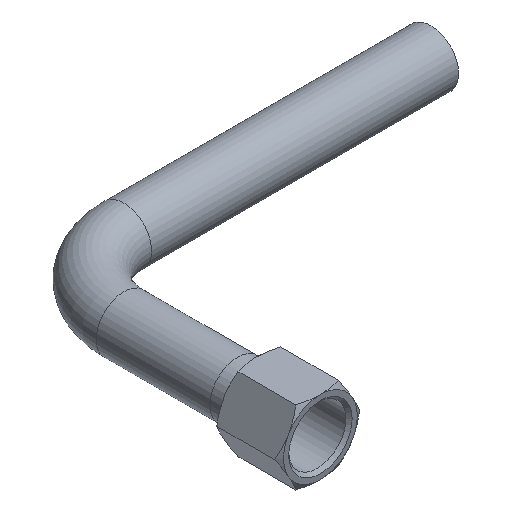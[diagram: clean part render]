
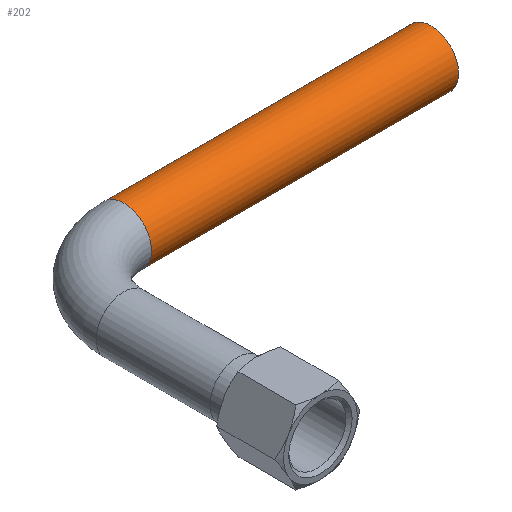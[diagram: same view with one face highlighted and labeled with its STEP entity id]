
A CAD part, isometric view. The second image highlights one B-rep face of the part: STEP entity #202.
In plain terms, the highlighted cylindrical face has radius 9 mm (diameter 18 mm), a full revolution.
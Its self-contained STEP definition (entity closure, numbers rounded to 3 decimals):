
#175=CARTESIAN_POINT('',(0.,25.0,0.0));
#176=DIRECTION('',(1.0,0.,0.0));
#177=DIRECTION('',(0.0,-1.0,0.0));
#178=AXIS2_PLACEMENT_3D('',#175,#176,#177);
#179=CYLINDRICAL_SURFACE('',#178,9.0);
#180=CARTESIAN_POINT('',(100.0,34.0,0.));
#181=VERTEX_POINT('',#180);
#182=CARTESIAN_POINT('',(100.0,25.,0.0));
#183=DIRECTION('',(-1.0,0.0,0.0));
#184=DIRECTION('',(0.0,-1.0,0.0));
#185=AXIS2_PLACEMENT_3D('',#182,#183,#184);
#186=CIRCLE('',#185,9.0);
#187=EDGE_CURVE('',#181,#181,#186,.T.);
#188=ORIENTED_EDGE('',*,*,#187,.T.);
#189=EDGE_LOOP('',(#188));
#190=FACE_OUTER_BOUND('',#189,.T.);
#191=CARTESIAN_POINT('',(0.,34.0,0.));
#192=VERTEX_POINT('',#191);
#193=CARTESIAN_POINT('',(0.,25.0,0.0));
#194=DIRECTION('',(-1.0,0.0,0.0));
#195=DIRECTION('',(0.0,-1.0,0.0));
#196=AXIS2_PLACEMENT_3D('',#193,#194,#195);
#197=CIRCLE('',#196,9.0);
#198=EDGE_CURVE('',#192,#192,#197,.T.);
#199=ORIENTED_EDGE('',*,*,#198,.F.);
#200=EDGE_LOOP('',(#199));
#201=FACE_BOUND('',#200,.T.);
#202=ADVANCED_FACE('',(#190,#201),#179,.T.);
